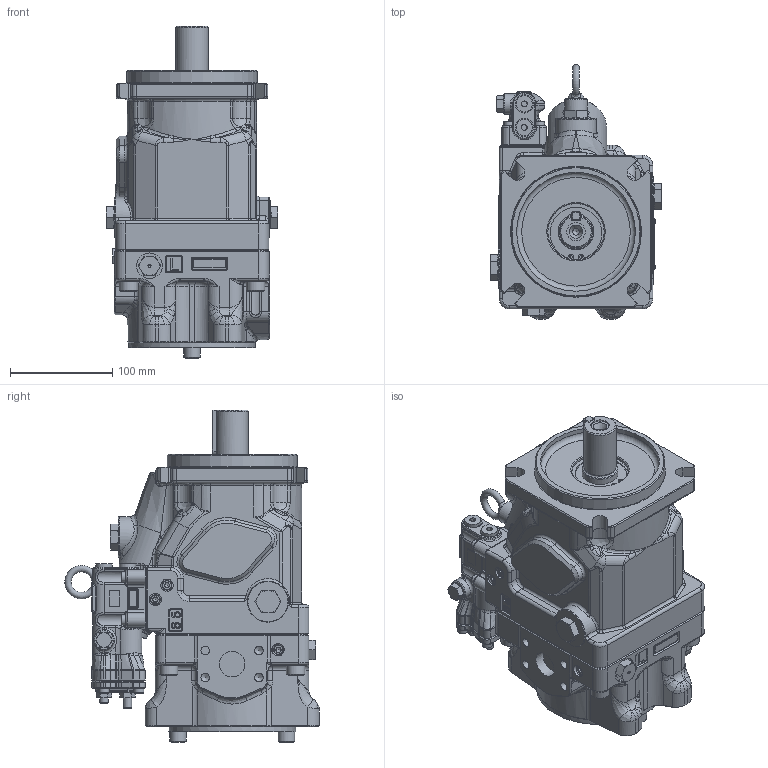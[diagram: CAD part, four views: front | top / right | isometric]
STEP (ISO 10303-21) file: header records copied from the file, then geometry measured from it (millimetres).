
FILE_DESCRIPTION(/* description */ (''),/* implementation_level */ '2;1');
FILE_NAME(/* name */ 'K3VLS65-1NRK3H-L1A.stp',/* time_stamp */ '2025-09-26T10:40:05+01:00',/* author */ ('jhatcher'),/* organization */ (''),/* preprocessor_version */ 'ST-DEVELOPER v20',/* originating_system */ 'Autodesk Inventor 2024',/* authorisation */ '');
FILE_SCHEMA (('AUTOMOTIVE_DESIGN { 1 0 10303 214 3 1 1 }'));
Products named in the file (1): K3VLS65-1NRK3H-L1A
Bounding box: 167.84 x 248.3 x 324 mm (x, y, z)
Volume: 5340525.6 mm3; surface area: 269886.5 mm2
Topology: 1 solids, 1 shells, 2679 faces, 6587 edges, 3981 vertices
Faces by surface type: plane 1191, cylinder 532, bspline 499, cone 289, torus 152, sphere 16
Full cylindrical faces by diameter (mm): 2.5 x2, 4 x2, 6.647 x1, 8 x2, 8.376 x8, 9.4 x3, 10 x8, 10.106 x4, 11 x8, 12 x3, 16 x4, 18 x7, 20 x5, 22 x1, 25 x2, 31.75 x1, 35 x1, 35.09 x1, 45 x1, 50 x1, 55 x1, 116 x1, 124 x1, 127 x1
Entity records: 93745 total; most frequent: CARTESIAN_POINT 33634, ORIENTED_EDGE 12998, DIRECTION 11649, EDGE_CURVE 6499, AXIS2_PLACEMENT_3D 4151, VERTEX_POINT 3981, LINE 3347, VECTOR 3347
